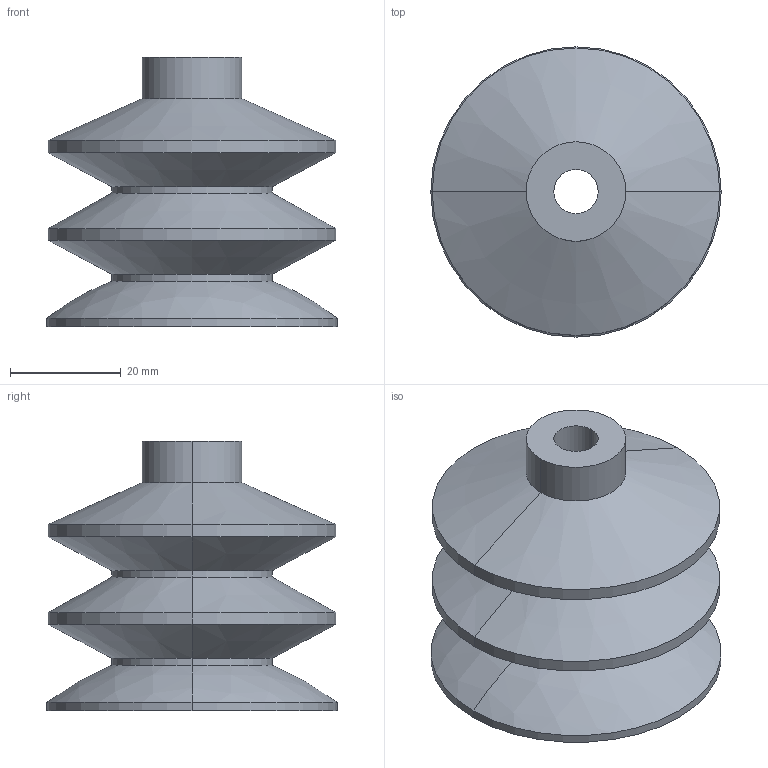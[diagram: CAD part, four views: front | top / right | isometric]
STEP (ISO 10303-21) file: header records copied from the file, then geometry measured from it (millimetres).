
FILE_DESCRIPTION (( 'STEP AP203' ), '1' );
FILE_NAME ('10.01.06.02365K_0_AA.STEP', '2022-04-15T16:56:37', ( 'Windows User' ), ( '' ), 'SwSTEP 2.0', 'SolidWorks 2021', '' );
FILE_SCHEMA (( 'CONFIG_CONTROL_DESIGN' ));
Length unit declared in the file: millimetre
Products named in the file (1): 10.01.06.02365K_0_AA
Bounding box: 52.5 x 52.5 x 48.7 mm (x, y, z)
Volume: 40467.4 mm3; surface area: 15698.2 mm2
Topology: 1 solids, 1 shells, 34 faces, 68 edges, 38 vertices
Faces by surface type: cylinder 18, cone 8, plane 4, torus 2, sphere 2
Entity records: 959 total; most frequent: DIRECTION 180, CARTESIAN_POINT 141, ORIENTED_EDGE 136, AXIS2_PLACEMENT_3D 77, EDGE_CURVE 68, CIRCLE 42, EDGE_LOOP 38, VERTEX_POINT 38
